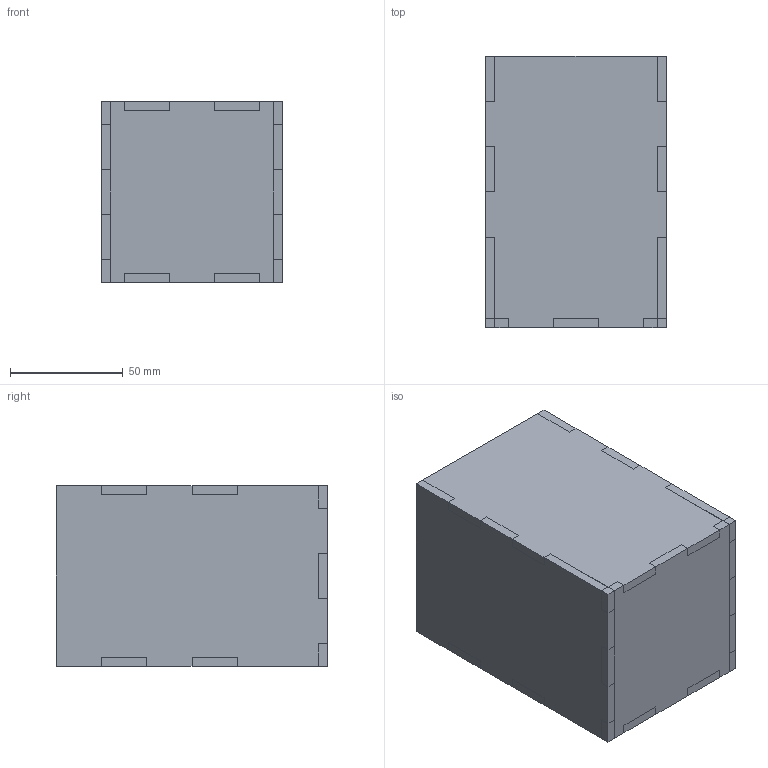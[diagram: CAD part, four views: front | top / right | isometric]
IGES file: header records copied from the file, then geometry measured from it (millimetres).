
Global section: file name: Untitled; native system: unknown; preprocessor: unknown; author: unknown; organization: unknown; date: 20170622.011907; units: millimetre
Bounding box: 80 x 120 x 80 mm (x, y, z)
Volume: 167936 mm3; surface area: 92352 mm2
Topology: 5 solids, 5 shells, 145 faces, 401 edges, 266 vertices
Faces by surface type: bspline 145
